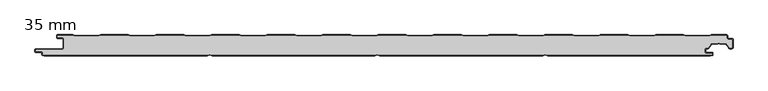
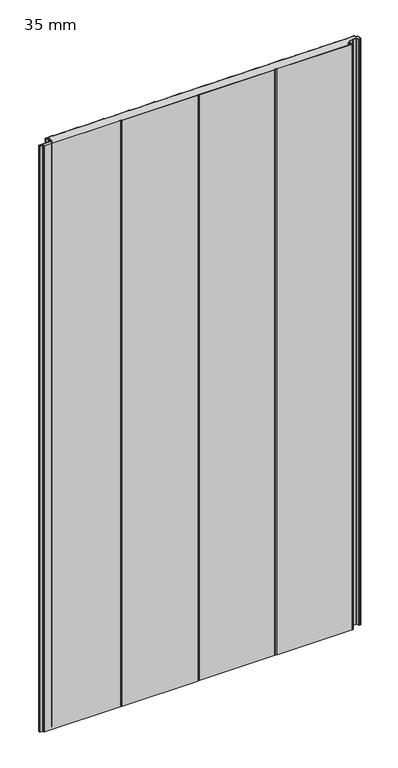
"""IFC4 building model written with IfcOpenShell, lengths in millimetres: plate geometry, HIANSA PANEL - H20.F02.003-PANELES DE FACHADA VERTICAL - PANEL SEMILISO - Panel de Muro Cortina : 35 mm."""

from ifc_helpers import new_model, si_unit, point, frame_2d, origin, origin_with_axes, place, context, project, spatial, polyline, circle_curve, trimmed, segment, composite_curve, outline, extrude, source, transform, mapped, element, save


def plate_35_mm_2ed9f2d6(model_context):
    return source(origin(), model_context, "Body", "SweptSolid", [
        extrude(outline(polyline([(572.7810465, -18.7998119), (572.7810465, -12.9009477), (573.2810465, -13.7002597), (573.2810465, -18.010534), (572.7810465, -18.7998119)])), origin_with_axes(), (0.0, 0.0, 1.0), 2200.0),
        extrude(outline(polyline([(-524.6789535, -12.9205793), (-524.6789535, -18.7723356), (-525.1789534, -18.0105341), (-525.1789534, -13.7002595), (-524.6789535, -12.9205793)])), origin_with_axes(), (0.0, 0.0, 1.0), 2200.0),
        extrude(outline(composite_curve([segment(polyline([(-525.1789536, -13.7002597), (-525.1789536, -7.54)]), True, "CONTINUOUS"), segment(trimmed(circle_curve(frame_2d((-526.7189536, -7.54)), 1.54), [point((-525.1789536, -7.54))], [point((-526.7189536, -6.0))], True, "CARTESIAN"), True, "CONTINUOUS"), segment(polyline([(-526.7189536, -6.0), (-534.3322682, -6.0)]), True, "CONTINUOUS"), segment(trimmed(circle_curve(frame_2d((-534.3322682, -4.5)), 1.5), [point((-534.3322682, -6.0))], [point((-535.8322682, -4.5))], False, "CARTESIAN"), True, "CONTINUOUS"), segment(polyline([(-535.8322682, -4.5), (-535.8322682, -1.5)]), True, "CONTINUOUS"), segment(trimmed(circle_curve(frame_2d((-534.3322682, -1.5)), 1.5), [point((-535.8322682, -1.5))], [point((-534.3322682, 0.0))], False, "CARTESIAN"), True, "CONTINUOUS"), segment(polyline([(-534.3322682, 0.0), (-509.3322682, 0.0), (-506.3322682, -1.0), (-466.3322682, -1.0), (-463.3322682, 0.0), (-418.3322682, 0.0), (-415.3322682, -1.0), (-375.3322682, -1.0), (-372.3322682, 0.0), (-327.3322682, 0.0), (-324.3322682, -1.0), (-284.3322682, -1.0), (-281.3322682, 0.0), (-236.3322682, 0.0), (-233.3322682, -1.0), (-193.3322682, -1.0), (-190.3322682, 0.0), (-145.3322682, 0.0), (-142.3322682, -1.0), (-102.3322682, -1.0), (-99.3322682, 0.0), (-54.3322682, 0.0), (-51.3322682, -1.0), (-11.3322682, -1.0), (-8.3322682, 0.0), (36.6677318, 0.0), (39.6677318, -1.0), (79.6677318, -1.0), (82.6677318, 0.0), (127.6677318, 0.0), (130.6677318, -1.0), (170.6677318, -1.0), (173.6677318, 0.0), (218.6677318, 0.0), (221.6677318, -1.0), (261.6677318, -1.0), (264.6677318, 0.0), (309.6677318, 0.0), (312.6677318, -1.0), (352.6677318, -1.0), (355.6677318, 0.0), (400.6677318, 0.0), (403.6677318, -1.0), (443.6677318, -1.0), (446.6677318, 0.0), (491.6677318, 0.0), (494.6677318, -1.0), (534.6677318, -1.0), (537.6677318, 0.0), (562.6277318, 0.0)]), True, "CONTINUOUS"), segment(trimmed(circle_curve(frame_2d((562.6277318, -1.5)), 1.5), [point((562.6277318, 0.0))], [point((564.1277318, -1.5000023))], False, "CARTESIAN"), True, "CONTINUOUS"), segment(polyline([(564.1277318, -1.5000023), (564.1277269, -4.7460034)]), True, "CONTINUOUS"), segment(trimmed(circle_curve(frame_2d((565.6317269, -4.7460057)), 1.504), [point((564.1277269, -4.7460034))], [point((565.6317269, -6.2500057))], True, "CARTESIAN"), True, "CONTINUOUS"), segment(polyline([(565.6317269, -6.2500057), (571.7810464, -6.2500057)]), True, "CONTINUOUS"), segment(trimmed(circle_curve(frame_2d((571.7810464, -7.7500057)), 1.5), [point((571.7810464, -6.2500057))], [point((573.2810464, -7.7500057))], False, "CARTESIAN"), True, "CONTINUOUS"), segment(polyline([(573.2810464, -7.7500057), (573.2810464, -13.7002597), (572.7810464, -12.9009477), (572.7810464, -7.75)]), True, "CONTINUOUS"), segment(trimmed(circle_curve(frame_2d((571.7810464, -7.75)), 1.0), [point((572.7810464, -7.75))], [point((571.7810464, -6.75))], True, "CARTESIAN"), True, "CONTINUOUS"), segment(polyline([(571.7810464, -6.75), (565.6317318, -6.75)]), True, "CONTINUOUS"), segment(trimmed(circle_curve(frame_2d((565.6317318, -4.746)), 2.004), [point((565.6317318, -6.75))], [point((563.6277318, -4.746))], False, "CARTESIAN"), True, "CONTINUOUS"), segment(polyline([(563.6277318, -4.746), (563.6277318, -1.5)]), True, "CONTINUOUS"), segment(trimmed(circle_curve(frame_2d((562.6277318, -1.5)), 1.0), [point((563.6277318, -1.5))], [point((562.6277318, -0.5))], True, "CARTESIAN"), True, "CONTINUOUS"), segment(polyline([(562.6277318, -0.5), (537.7488706, -0.5), (534.7488706, -1.5), (494.5865929, -1.5), (491.5865929, -0.5), (446.7488706, -0.5), (443.7488706, -1.5), (403.5865929, -1.5), (400.5865929, -0.5), (355.7488706, -0.5), (352.7488706, -1.5), (312.5865929, -1.5), (309.5865929, -0.5), (264.7488706, -0.5), (261.7488706, -1.5), (221.5865929, -1.5), (218.5865929, -0.5), (173.7488706, -0.5), (170.7488706, -1.5), (130.5865929, -1.5), (127.5865929, -0.5), (82.7488706, -0.5), (79.7488706, -1.5), (39.5865929, -1.5), (36.5865929, -0.5), (-8.2511294, -0.5), (-11.2511294, -1.5), (-51.4134071, -1.5), (-54.4134071, -0.5), (-99.2511294, -0.5), (-102.2511294, -1.5), (-142.4134071, -1.5), (-145.4134071, -0.5), (-190.2511294, -0.5), (-193.2511294, -1.5), (-233.4134071, -1.5), (-236.4134071, -0.5), (-281.2511294, -0.5), (-284.2511294, -1.5), (-324.4134071, -1.5), (-327.4134071, -0.5), (-372.2511294, -0.5), (-375.2511294, -1.5), (-415.4134071, -1.5), (-418.4134071, -0.5), (-463.2511294, -0.5), (-466.2511294, -1.5), (-506.4134071, -1.5), (-509.4134071, -0.5), (-534.3322682, -0.5)]), True, "CONTINUOUS"), segment(trimmed(circle_curve(frame_2d((-534.3322682, -1.5)), 1.0), [point((-534.3322682, -0.5))], [point((-535.3322682, -1.4999981))], True, "CARTESIAN"), True, "CONTINUOUS"), segment(polyline([(-535.3322682, -1.4999981), (-535.3322739, -4.4999981)]), True, "CONTINUOUS"), segment(trimmed(circle_curve(frame_2d((-534.3322682, -4.5)), 1.0000057), [point((-535.3322739, -4.4999981))], [point((-534.3322682, -5.5000057))], True, "CARTESIAN"), True, "CONTINUOUS"), segment(polyline([(-534.3322682, -5.5000057), (-526.7189536, -5.5000057)]), True, "CONTINUOUS"), segment(trimmed(circle_curve(frame_2d((-526.7189536, -7.5400057)), 2.04), [point((-526.7189536, -5.5000057))], [point((-524.6789536, -7.5400057))], False, "CARTESIAN"), True, "CONTINUOUS"), segment(polyline([(-524.6789536, -7.5400057), (-524.6789536, -12.9205793), (-525.1789536, -13.7002597)]), True, "CONTINUOUS")], self_intersect=False)), origin_with_axes(), (0.0, 0.0, 1.0), 2200.0),
        extrude(outline(composite_curve([segment(polyline([(-288.7930165, -35.0), (-555.8367122, -35.0), (-558.3953079, -34.3603511)]), True, "CONTINUOUS"), segment(trimmed(circle_curve(frame_2d((-557.9344902, -32.5170803)), 1.9), [point((-558.3953079, -34.3603511))], [point((-559.8344902, -32.5170803))], False, "CARTESIAN"), True, "CONTINUOUS"), segment(polyline([(-559.8344902, -32.5170803), (-559.8344902, -30.1276596)]), True, "CONTINUOUS"), segment(trimmed(circle_curve(frame_2d((-560.8344902, -30.1276596)), 1.0), [point((-559.8344902, -30.1276596))], [point((-560.8344902, -29.1276596))], True, "CARTESIAN"), True, "CONTINUOUS"), segment(polyline([(-560.8344902, -29.1276596), (-570.2500002, -29.1276596)]), True, "CONTINUOUS"), segment(trimmed(circle_curve(frame_2d((-570.2500002, -28.1276596)), 1.0), [point((-570.2500002, -29.1276596))], [point((-571.2500002, -28.1276596))], False, "CARTESIAN"), True, "CONTINUOUS"), segment(polyline([(-571.2500002, -28.1276596), (-571.2500002, -24.3776596)]), True, "CONTINUOUS"), segment(trimmed(circle_curve(frame_2d((-570.2500002, -24.3776596)), 1.0), [point((-571.2500002, -24.3776596))], [point((-570.2500002, -23.3776596))], False, "CARTESIAN"), True, "CONTINUOUS"), segment(polyline([(-570.2500002, -23.3776596), (-527.2189536, -23.3776596)]), True, "CONTINUOUS"), segment(trimmed(circle_curve(frame_2d((-527.2189536, -21.3376596)), 2.04), [point((-527.2189536, -23.3776596))], [point((-525.1789536, -21.3376596))], True, "CARTESIAN"), True, "CONTINUOUS"), segment(polyline([(-525.1789536, -21.3376596), (-525.1789536, -18.010534), (-524.6789536, -18.7723356), (-524.6789536, -21.3376596)]), True, "CONTINUOUS"), segment(trimmed(circle_curve(frame_2d((-527.2189536, -21.3376596)), 2.54), [point((-524.6789536, -21.3376596))], [point((-527.2189536, -23.8776596))], False, "CARTESIAN"), True, "CONTINUOUS"), segment(polyline([(-527.2189536, -23.8776596), (-570.7500002, -23.8776596), (-570.7500002, -28.6276596), (-560.8344902, -28.6276596)]), True, "CONTINUOUS"), segment(trimmed(circle_curve(frame_2d((-560.8344902, -30.1276596)), 1.5), [point((-560.8344902, -28.6276596))], [point((-559.3344902, -30.1276596))], False, "CARTESIAN"), True, "CONTINUOUS"), segment(polyline([(-559.3344902, -30.1276596), (-559.3344902, -32.5178943)]), True, "CONTINUOUS"), segment(trimmed(circle_curve(frame_2d((-557.9355327, -32.5178943)), 1.3989577), [point((-559.3344902, -32.5178943))], [point((-558.2748298, -33.8750826))], True, "CARTESIAN"), True, "CONTINUOUS"), segment(polyline([(-558.2748298, -33.8750826), (-555.7751594, -34.5), (-288.8753062, -34.5), (-284.8344902, -32.9523537), (-280.7936743, -34.5), (-13.8753062, -34.5), (-9.8344902, -32.9523537), (-5.7936743, -34.5), (261.1246938, -34.5), (265.1655098, -32.9523537), (269.2063257, -34.5), (536.106179, -34.5), (538.6050596, -33.8752798)]), True, "CONTINUOUS"), segment(trimmed(circle_curve(frame_2d((538.2655098, -32.5170803)), 1.4), [point((538.6050596, -33.8752798))], [point((539.6655098, -32.5170803))], True, "CARTESIAN"), True, "CONTINUOUS"), segment(polyline([(539.6655098, -32.5170803), (539.6655098, -29.8776596), (529.2499998, -29.8776596)]), True, "CONTINUOUS"), segment(trimmed(circle_curve(frame_2d((529.2499998, -28.3776596)), 1.5), [point((529.2499998, -29.8776596))], [point((527.7499998, -28.3776596))], False, "CARTESIAN"), True, "CONTINUOUS"), segment(polyline([(527.7499998, -28.3776596), (527.7499998, -24.1276596)]), True, "CONTINUOUS"), segment(trimmed(circle_curve(frame_2d((529.2499998, -24.1276596)), 1.5), [point((527.7499998, -24.1276596))], [point((529.2499998, -22.6276596))], False, "CARTESIAN"), True, "CONTINUOUS"), segment(polyline([(529.2499998, -22.6276596), (532.101303, -22.6276596)]), True, "CONTINUOUS"), segment(trimmed(circle_curve(frame_2d((532.101303, -21.1276596)), 1.5), [point((532.101303, -22.6276596))], [point((533.330031, -21.9880243))], True, "CARTESIAN"), True, "CONTINUOUS"), segment(polyline([(533.330031, -21.9880243), (537.5715505, -15.9305067)]), True, "CONTINUOUS"), segment(trimmed(circle_curve(frame_2d((539.2098546, -17.0776596)), 2.0), [point((537.5715505, -15.9305067))], [point((539.2098546, -15.0776596))], False, "CARTESIAN"), True, "CONTINUOUS"), segment(polyline([(539.2098546, -15.0776596), (548.3071795, -15.0776596), (549.4999998, -14.3889845)]), True, "CONTINUOUS"), segment(trimmed(circle_curve(frame_2d((549.9999998, -15.2550099)), 1.0), [point((549.4999998, -14.3889845))], [point((550.4999998, -14.3889845))], False, "CARTESIAN"), True, "CONTINUOUS"), segment(polyline([(550.4999998, -14.3889845), (551.6928202, -15.0776596), (560.7901451, -15.0776596)]), True, "CONTINUOUS"), segment(trimmed(circle_curve(frame_2d((560.7901451, -17.0776596)), 2.0), [point((560.7901451, -15.0776596))], [point((562.4284492, -15.9305067))], False, "CARTESIAN"), True, "CONTINUOUS"), segment(polyline([(562.4284492, -15.9305067), (566.6699686, -21.9880243)]), True, "CONTINUOUS"), segment(trimmed(circle_curve(frame_2d((567.8986967, -21.1276596)), 1.5), [point((566.6699686, -21.9880243))], [point((567.8986967, -22.6276596))], True, "CARTESIAN"), True, "CONTINUOUS"), segment(polyline([(567.8986967, -22.6276596), (571.2810464, -22.6276596)]), True, "CONTINUOUS"), segment(trimmed(circle_curve(frame_2d((571.2810464, -21.1276596)), 1.5), [point((571.2810464, -22.6276596))], [point((572.7810464, -21.1276596))], True, "CARTESIAN"), True, "CONTINUOUS"), segment(polyline([(572.7810464, -21.1276596), (572.7810464, -18.7998119), (573.2810464, -18.010534), (573.2810464, -21.1276596)]), True, "CONTINUOUS"), segment(trimmed(circle_curve(frame_2d((571.2810464, -21.1276596)), 2.0), [point((573.2810464, -21.1276596))], [point((571.2810464, -23.1276596))], False, "CARTESIAN"), True, "CONTINUOUS"), segment(polyline([(571.2810464, -23.1276596), (567.8986967, -23.1276596)]), True, "CONTINUOUS"), segment(trimmed(circle_curve(frame_2d((567.8986967, -21.1276596)), 2.0), [point((567.8986967, -23.1276596))], [point((566.2603926, -22.2748125))], False, "CARTESIAN"), True, "CONTINUOUS"), segment(polyline([(566.2603926, -22.2748125), (562.0188732, -16.2172949)]), True, "CONTINUOUS"), segment(trimmed(circle_curve(frame_2d((560.7901451, -17.0776596)), 1.5), [point((562.0188732, -16.2172949))], [point((560.7901451, -15.5776596))], True, "CARTESIAN"), True, "CONTINUOUS"), segment(polyline([(560.7901451, -15.5776596), (551.5588456, -15.5776596), (549.9999998, -14.6776596), (548.4411541, -15.5776596), (539.2098546, -15.5776596)]), True, "CONTINUOUS"), segment(trimmed(circle_curve(frame_2d((539.2098546, -17.0776596)), 1.5), [point((539.2098546, -15.5776596))], [point((537.9811265, -16.2172949))], True, "CARTESIAN"), True, "CONTINUOUS"), segment(polyline([(537.9811265, -16.2172949), (533.7396071, -22.2748125)]), True, "CONTINUOUS"), segment(trimmed(circle_curve(frame_2d((532.101303, -21.1276596)), 2.0), [point((533.7396071, -22.2748125))], [point((532.101303, -23.1276596))], False, "CARTESIAN"), True, "CONTINUOUS"), segment(polyline([(532.101303, -23.1276596), (529.2499998, -23.1276596)]), True, "CONTINUOUS"), segment(trimmed(circle_curve(frame_2d((529.2499998, -24.1276596)), 1.0), [point((529.2499998, -23.1276596))], [point((528.2499998, -24.1276596))], True, "CARTESIAN"), True, "CONTINUOUS"), segment(polyline([(528.2499998, -24.1276596), (528.2499998, -28.3776596)]), True, "CONTINUOUS"), segment(trimmed(circle_curve(frame_2d((529.2499998, -28.3776596)), 1.0), [point((528.2499998, -28.3776596))], [point((529.2499998, -29.3776596))], True, "CARTESIAN"), True, "CONTINUOUS"), segment(polyline([(529.2499998, -29.3776596), (539.1655098, -29.3776596)]), True, "CONTINUOUS"), segment(trimmed(circle_curve(frame_2d((539.1655098, -30.3776596)), 1.0), [point((539.1655098, -29.3776596))], [point((540.1655098, -30.3776596))], False, "CARTESIAN"), True, "CONTINUOUS"), segment(polyline([(540.1655098, -30.3776596), (540.1655098, -32.5170803)]), True, "CONTINUOUS"), segment(trimmed(circle_curve(frame_2d((538.2655098, -32.5170803)), 1.9), [point((540.1655098, -32.5170803))], [point((538.7263275, -34.3603511))], False, "CARTESIAN"), True, "CONTINUOUS"), segment(polyline([(538.7263275, -34.3603511), (536.1677318, -35.0), (269.124036, -35.0), (265.1655098, -33.483871), (261.2069835, -35.0), (-5.875964, -35.0), (-9.8344902, -33.483871), (-13.7930165, -35.0), (-280.875964, -35.0), (-284.8344902, -33.483871), (-288.7930165, -35.0)]), True, "CONTINUOUS")], self_intersect=False)), origin_with_axes(), (0.0, 0.0, 1.0), 2200.0),
        extrude(outline(composite_curve([segment(polyline([(-555.804199, -34.4927405), (-558.2748296, -33.8750829)]), True, "CONTINUOUS"), segment(trimmed(circle_curve(frame_2d((-557.9355326, -32.5178947)), 1.3989576), [point((-558.2748296, -33.8750829))], [point((-559.3344902, -32.5178947))], False, "CARTESIAN"), True, "CONTINUOUS"), segment(polyline([(-559.3344902, -32.5178947), (-559.3344902, -30.1276601)]), True, "CONTINUOUS"), segment(trimmed(circle_curve(frame_2d((-560.8344902, -30.1276601)), 1.5), [point((-559.3344902, -30.1276601))], [point((-560.8344902, -28.6276601))], True, "CARTESIAN"), True, "CONTINUOUS"), segment(polyline([(-560.8344902, -28.6276601), (-570.7500001, -28.6276601), (-570.7500001, -23.8776601), (-527.2189535, -23.8776601)]), True, "CONTINUOUS"), segment(trimmed(circle_curve(frame_2d((-527.2189535, -21.3376599)), 2.5400001), [point((-527.2189535, -23.8776601))], [point((-524.6789534, -21.3376599))], True, "CARTESIAN"), True, "CONTINUOUS"), segment(polyline([(-524.6789534, -21.3376599), (-524.6789534, -7.540006)]), True, "CONTINUOUS"), segment(trimmed(circle_curve(frame_2d((-526.7189536, -7.540006)), 2.0400002), [point((-524.6789534, -7.540006))], [point((-526.7189536, -5.5000059))], True, "CARTESIAN"), True, "CONTINUOUS"), segment(polyline([(-526.7189536, -5.5000059), (-534.332268, -5.5000059)]), True, "CONTINUOUS"), segment(trimmed(circle_curve(frame_2d((-534.332268, -4.4999998)), 1.0000061), [point((-534.332268, -5.5000059))], [point((-535.3322741, -4.4999978))], False, "CARTESIAN"), True, "CONTINUOUS"), segment(polyline([(-535.3322741, -4.4999978), (-535.332268, -1.4999977)]), True, "CONTINUOUS"), segment(trimmed(circle_curve(frame_2d((-534.3322682, -1.4999997)), 0.9999997), [point((-535.332268, -1.4999977))], [point((-534.3322682, -0.5))], False, "CARTESIAN"), True, "CONTINUOUS"), segment(polyline([(-534.3322682, -0.5), (-509.413407, -0.5), (-506.413407, -1.5000005), (-466.2511293, -1.5000005), (-463.2511293, -0.5000005), (-418.413407, -0.5000005), (-415.413407, -1.5000005), (-375.2511293, -1.5000005), (-372.2511293, -0.5000005), (-327.413407, -0.5000005), (-324.413407, -1.5000005), (-284.2511293, -1.5000005), (-281.2511293, -0.5000005), (-236.413407, -0.5000005), (-233.413407, -1.5000005), (-193.2511293, -1.5000005), (-190.2511293, -0.5000005), (-145.413407, -0.5000005), (-142.413407, -1.5000005), (-102.2511293, -1.5000005), (-99.2511293, -0.5000005), (-54.413407, -0.5000005), (-51.413407, -1.5000005), (-11.2511293, -1.5000005), (-8.2511293, -0.5000005), (36.586593, -0.5000005), (39.586593, -1.5000005), (79.7488707, -1.5000005), (82.7488707, -0.5000005), (127.586593, -0.5000005), (130.586593, -1.5000005), (170.7488707, -1.5000005), (173.7488707, -0.5000005), (218.586593, -0.5000005), (221.586593, -1.5000005), (261.7488707, -1.5000005), (264.7488707, -0.5000005), (309.586593, -0.5000005), (312.586593, -1.5000005), (352.7488707, -1.5000005), (355.7488707, -0.5000005), (400.586593, -0.5000005), (403.586593, -1.5000005), (443.7488707, -1.5000005), (446.7488707, -0.5000005), (491.586593, -0.5000005), (494.586593, -1.5000005), (534.7488707, -1.5000005), (537.7488721, -0.5), (562.6277319, -0.5)]), True, "CONTINUOUS"), segment(trimmed(circle_curve(frame_2d((562.6277319, -1.5)), 1.0), [point((562.6277319, -0.5))], [point((563.6277319, -1.5))], False, "CARTESIAN"), True, "CONTINUOUS"), segment(polyline([(563.6277319, -1.5), (563.6277319, -4.7460005)]), True, "CONTINUOUS"), segment(trimmed(circle_curve(frame_2d((565.6317319, -4.7460005)), 2.004), [point((563.6277319, -4.7460005))], [point((565.6317319, -6.7500005))], True, "CARTESIAN"), True, "CONTINUOUS"), segment(polyline([(565.6317319, -6.7500005), (571.7810465, -6.7500005)]), True, "CONTINUOUS"), segment(trimmed(circle_curve(frame_2d((571.7810465, -7.7500005)), 1.0), [point((571.7810465, -6.7500005))], [point((572.7810465, -7.7500005))], False, "CARTESIAN"), True, "CONTINUOUS"), segment(polyline([(572.7810465, -7.7500005), (572.7810465, -21.1276601)]), True, "CONTINUOUS"), segment(trimmed(circle_curve(frame_2d((571.2810465, -21.1276601)), 1.5), [point((572.7810465, -21.1276601))], [point((571.2810465, -22.6276601))], False, "CARTESIAN"), True, "CONTINUOUS"), segment(polyline([(571.2810465, -22.6276601), (567.8986968, -22.6276601)]), True, "CONTINUOUS"), segment(trimmed(circle_curve(frame_2d((567.8986968, -21.1276601)), 1.5), [point((567.8986968, -22.6276601))], [point((566.6699687, -21.9880247))], False, "CARTESIAN"), True, "CONTINUOUS"), segment(polyline([(566.6699687, -21.9880247), (562.4284493, -15.9305072)]), True, "CONTINUOUS"), segment(trimmed(circle_curve(frame_2d((560.7901452, -17.0776601)), 2.0), [point((562.4284493, -15.9305072))], [point((560.7901452, -15.0776601))], True, "CARTESIAN"), True, "CONTINUOUS"), segment(polyline([(560.7901452, -15.0776601), (551.6928203, -15.0776601), (550.4999999, -14.3889849)]), True, "CONTINUOUS"), segment(trimmed(circle_curve(frame_2d((549.9999999, -15.2550103)), 1.0), [point((550.4999999, -14.3889849))], [point((549.4999999, -14.3889849))], True, "CARTESIAN"), True, "CONTINUOUS"), segment(polyline([(549.4999999, -14.3889849), (548.3071796, -15.0776601), (539.2098547, -15.0776601)]), True, "CONTINUOUS"), segment(trimmed(circle_curve(frame_2d((539.2098547, -17.0776601)), 2.0), [point((539.2098547, -15.0776601))], [point((537.5715506, -15.9305072))], True, "CARTESIAN"), True, "CONTINUOUS"), segment(polyline([(537.5715506, -15.9305072), (533.3300311, -21.9880247)]), True, "CONTINUOUS"), segment(trimmed(circle_curve(frame_2d((532.1013031, -21.1276601)), 1.5), [point((533.3300311, -21.9880247))], [point((532.1013031, -22.6276601))], False, "CARTESIAN"), True, "CONTINUOUS"), segment(polyline([(532.1013031, -22.6276601), (529.2499999, -22.6276601)]), True, "CONTINUOUS"), segment(trimmed(circle_curve(frame_2d((529.2499999, -24.1276601)), 1.5), [point((529.2499999, -22.6276601))], [point((527.7499999, -24.1276601))], True, "CARTESIAN"), True, "CONTINUOUS"), segment(polyline([(527.7499999, -24.1276601), (527.7499999, -28.3776601)]), True, "CONTINUOUS"), segment(trimmed(circle_curve(frame_2d((529.2499999, -28.3776601)), 1.5), [point((527.7499999, -28.3776601))], [point((529.2499999, -29.8776601))], True, "CARTESIAN"), True, "CONTINUOUS"), segment(polyline([(529.2499999, -29.8776601), (539.6655099, -29.8776601), (539.6655099, -32.5170808)]), True, "CONTINUOUS"), segment(trimmed(circle_curve(frame_2d((538.2655099, -32.5170808)), 1.4), [point((539.6655099, -32.5170808))], [point((538.6050597, -33.8752803))], False, "CARTESIAN"), True, "CONTINUOUS"), segment(polyline([(538.6050597, -33.8752803), (536.1352187, -34.4927405), (269.1873706, -34.4927405), (265.1655099, -32.9523542), (261.1246939, -34.5000005), (-5.7936742, -34.5000005), (-9.8344901, -32.9523542), (-13.8753061, -34.5000005), (-280.7936742, -34.5000005), (-284.8344901, -32.9523542), (-288.8563508, -34.4927405), (-555.804199, -34.4927405)]), True, "CONTINUOUS")], self_intersect=False)), origin_with_axes(), (0.0, 0.0, 1.0), 2200.0),
    ])


if __name__ == "__main__":
    model = new_model("IFC4")
    model_context = context("Model", 3, world=origin())
    ifc_project = project(units=[si_unit("LENGTHUNIT", "METRE", prefix="MILLI")], contexts=[model_context])
    site = spatial("IfcSite", under=ifc_project)
    building = spatial("IfcBuilding", under=site)
    placement = place(None, origin())
    plate_35_mm_shape = plate_35_mm_2ed9f2d6(model_context)
    element("IfcPlate", 1, ObjectType="HIANSA PANEL - H20.F02.003-PANELES DE FACHADA VERTICAL - PANEL SEMILISO - Panel de Muro Cortina : 35 mm", at=placement, inside=building, context=model_context, shape_type="MappedRepresentation", body=[
        mapped(plate_35_mm_shape, transform((0.0, 0.0, 0.0), x_axis=(1.0, 0.0, 0.0), y_axis=(0.0, 1.0, 0.0), z_axis=(0.0, 0.0, 1.0))),
    ])
    save(model, "model.ifc")
